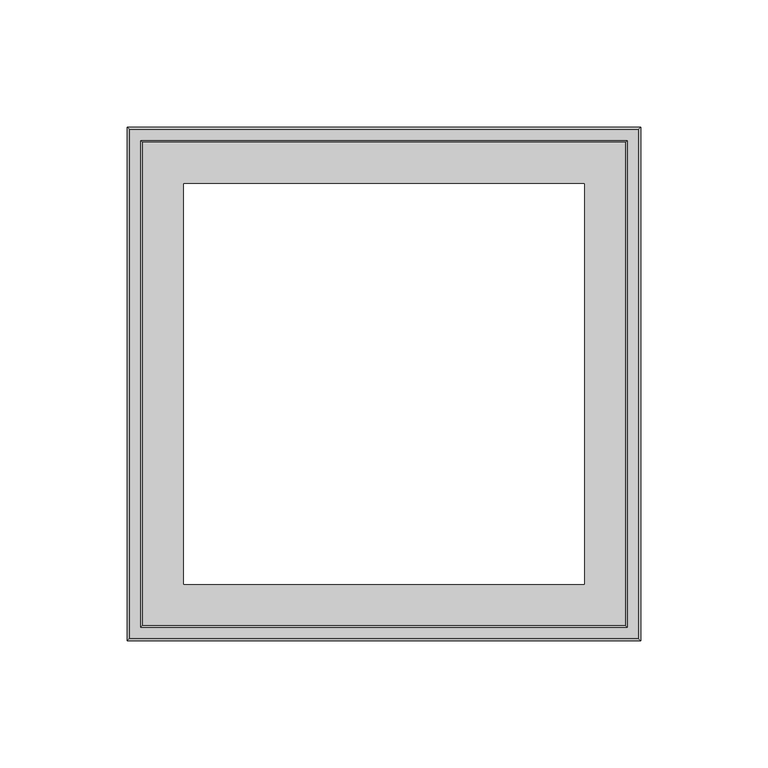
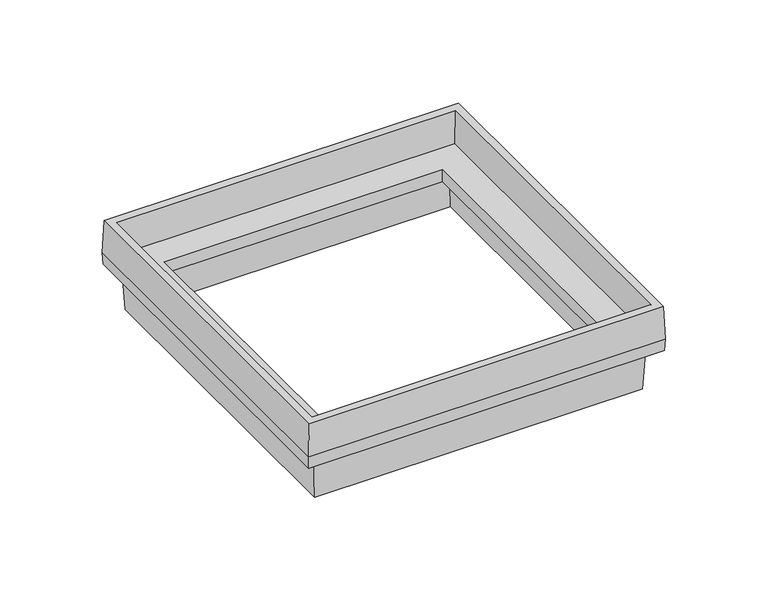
"""IFC4 building model written with IfcOpenShell, lengths in millimetres: sanitary terminal geometry, PF_ST_UN_70539_Rehausse fonte complet G fonte sortie DN100_ACO : PF_ST_UN_70539_Rehausse fonte complet G fonte sortie DN100_ACO."""

from ifc_helpers import new_model, si_unit, origin, place, context, project, spatial, faceted_brep, source, transform, mapped, element, save


def sanitary_terminal_d9b4ee69(model_context):
    return source(origin(), model_context, "Body", "Brep", [
        faceted_brep([(100.665, 100.665, -19.0), (100.0, 100.0, 0.0), (100.0, -100.0, 0.0), (100.665, -100.665, -19.0), (100.4218421, 100.4218421, -26.0), (100.4218421, -100.4218421, -26.0), (92.5, 92.5, -51.0), (93.7518421, 93.7518421, -26.0), (93.7518421, -93.7518421, -26.0), (92.5, -92.5, -51.0), (87.69, 87.69, -26.0), (89.0, 89.0, -51.0), (89.0, -89.0, -51.0), (87.69, -87.69, -26.0), (78.5, 78.5, -19.0), (78.5, 78.5, -26.0), (78.5, -78.5, -26.0), (78.5, -78.5, -19.0), (95.5, 95.5, 0.0), (94.84, 94.84, -19.0), (94.84, -94.84, -19.0), (95.5, -95.5, 0.0), (-100.0, -100.0, 0.0), (-100.665, -100.665, -19.0), (-100.4218421, -100.4218421, -26.0), (-93.7518421, -93.7518421, -26.0), (-92.5, -92.5, -51.0), (-89.0, -89.0, -51.0), (-87.69, -87.69, -26.0), (-78.5, -78.5, -26.0), (-78.5, -78.5, -19.0), (-94.84, -94.84, -19.0), (-95.5, -95.5, 0.0), (-100.0, 100.0, 0.0), (-100.665, 100.665, -19.0), (-100.4218421, 100.4218421, -26.0), (-93.7518421, 93.7518421, -26.0), (-92.5, 92.5, -51.0), (-89.0, 89.0, -51.0), (-87.69, 87.69, -26.0), (-78.5, 78.5, -26.0), (-78.5, 78.5, -19.0), (-94.84, 94.84, -19.0), (-95.5, 95.5, 0.0)], [[[0, 1, 2, 3]], [[4, 0, 3, 5]], [[6, 7, 8, 9]], [[10, 11, 12, 13]], [[14, 15, 16, 17]], [[18, 19, 20, 21]], [[3, 2, 22, 23]], [[5, 3, 23, 24]], [[9, 8, 25, 26]], [[13, 12, 27, 28]], [[17, 16, 29, 30]], [[21, 20, 31, 32]], [[23, 22, 33, 34]], [[24, 23, 34, 35]], [[26, 25, 36, 37]], [[28, 27, 38, 39]], [[30, 29, 40, 41]], [[32, 31, 42, 43]], [[1, 33, 22, 2], [21, 32, 43, 18]], [[34, 33, 1, 0]], [[35, 34, 0, 4]], [[5, 24, 35, 4], [7, 36, 25, 8]], [[37, 36, 7, 6]], [[9, 26, 37, 6], [11, 38, 27, 12]], [[39, 38, 11, 10]], [[13, 28, 39, 10], [15, 40, 29, 16]], [[41, 40, 15, 14]], [[19, 42, 31, 20], [17, 30, 41, 14]], [[43, 42, 19, 18]]]),
    ])


if __name__ == "__main__":
    model = new_model("IFC4")
    model_context = context("Model", 3, world=origin())
    ifc_project = project(units=[si_unit("LENGTHUNIT", "METRE", prefix="MILLI")], contexts=[model_context])
    site = spatial("IfcSite", under=ifc_project)
    building = spatial("IfcBuilding", under=site)
    placement = place(None, origin())
    sanitary_terminal_shape = sanitary_terminal_d9b4ee69(model_context)
    element("IfcSanitaryTerminal", 1, ObjectType="PF_ST_UN_70539_Rehausse fonte complet G fonte sortie DN100_ACO : PF_ST_UN_70539_Rehausse fonte complet G fonte sortie DN100_ACO", at=placement, inside=building, context=model_context, shape_type="MappedRepresentation", body=[
        mapped(sanitary_terminal_shape, transform((0.0, 0.0, 0.0), x_axis=(1.0, 0.0, 0.0), y_axis=(0.0, 1.0, 0.0), z_axis=(0.0, 0.0, 1.0))),
    ])
    save(model, "model.ifc")
